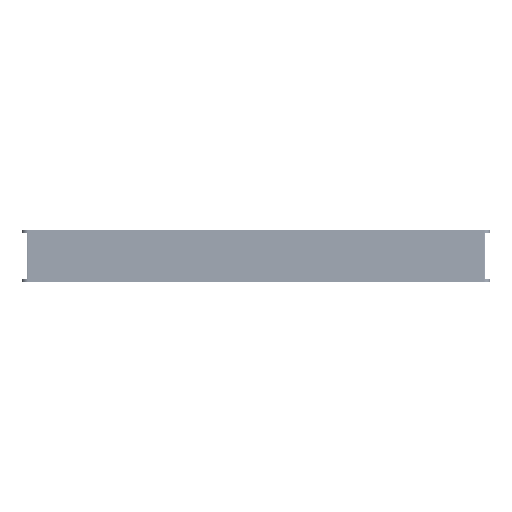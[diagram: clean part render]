
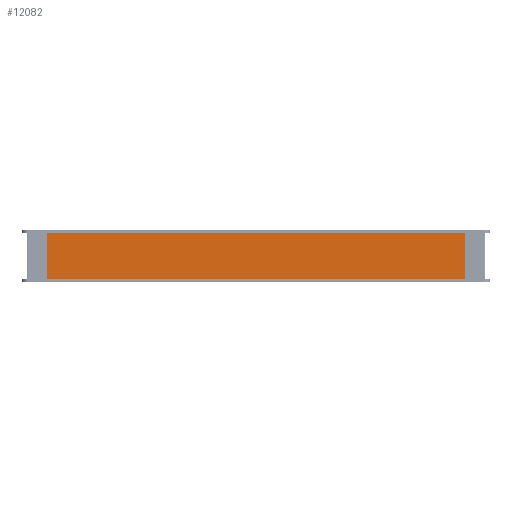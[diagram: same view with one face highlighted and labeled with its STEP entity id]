
A CAD part, left-side view. The second image highlights one B-rep face of the part: STEP entity #12082.
In plain terms, the highlighted planar face has unit normal (-1, 0, 0).
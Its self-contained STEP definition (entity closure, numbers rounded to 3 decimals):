
#972 = VERTEX_POINT ( 'NONE', #149924 ) ;
#11224 = CARTESIAN_POINT ( 'NONE',  ( -875.983, 34.86, -86.545 ) ) ;
#12082 = ADVANCED_FACE ( 'NONE', ( #52879 ), #80776, .F. ) ;
#17507 = DIRECTION ( 'NONE',  ( 0., 1., 0. ) ) ;
#22129 = CARTESIAN_POINT ( 'NONE',  ( -875.983, 467.86, -131.045 ) ) ;
#28904 = ORIENTED_EDGE ( 'NONE', *, *, #55417, .T. ) ;
#30155 = CARTESIAN_POINT ( 'NONE',  ( -875.983, -398.14, -42.045 ) ) ;
#32559 = VECTOR ( 'NONE', #146306, 1000. ) ;
#39635 = LINE ( 'NONE', #30155, #68780 ) ;
#45386 = LINE ( 'NONE', #52274, #32559 ) ;
#49449 = VERTEX_POINT ( 'NONE', #137899 ) ;
#52274 = CARTESIAN_POINT ( 'NONE',  ( -875.983, -398.14, -42.045 ) ) ;
#52879 = FACE_OUTER_BOUND ( 'NONE', #117825, .T. ) ;
#55417 = EDGE_CURVE ( 'NONE', #76734, #102682, #141434, .T. ) ;
#67060 = CARTESIAN_POINT ( 'NONE',  ( -875.983, 467.86, -42.045 ) ) ;
#68780 = VECTOR ( 'NONE', #17507, 1000. ) ;
#76734 = VERTEX_POINT ( 'NONE', #22129 ) ;
#80589 = AXIS2_PLACEMENT_3D ( 'NONE', #11224, #126058, #104149 ) ;
#80776 = PLANE ( 'NONE',  #80589 ) ;
#83192 = VECTOR ( 'NONE', #139293, 1000. ) ;
#86162 = EDGE_CURVE ( 'NONE', #102682, #49449, #45386, .T. ) ;
#88361 = CARTESIAN_POINT ( 'NONE',  ( -875.983, -398.14, -131.045 ) ) ;
#89903 = CARTESIAN_POINT ( 'NONE',  ( -875.983, -398.14, -131.045 ) ) ;
#93611 = ORIENTED_EDGE ( 'NONE', *, *, #135466, .T. ) ;
#100613 = DIRECTION ( 'NONE',  ( 0., -1., 0. ) ) ;
#102682 = VERTEX_POINT ( 'NONE', #89903 ) ;
#104149 = DIRECTION ( 'NONE',  ( 0., -1., 0. ) ) ;
#114141 = LINE ( 'NONE', #67060, #83192 ) ;
#117825 = EDGE_LOOP ( 'NONE', ( #146357, #28904, #148440, #93611 ) ) ;
#126058 = DIRECTION ( 'NONE',  ( 1., 0., 0. ) ) ;
#135466 = EDGE_CURVE ( 'NONE', #49449, #972, #39635, .T. ) ;
#136110 = EDGE_CURVE ( 'NONE', #972, #76734, #114141, .T. ) ;
#137899 = CARTESIAN_POINT ( 'NONE',  ( -875.983, -398.14, -42.045 ) ) ;
#139293 = DIRECTION ( 'NONE',  ( 0., 0., -1. ) ) ;
#139534 = VECTOR ( 'NONE', #100613, 1000. ) ;
#141434 = LINE ( 'NONE', #88361, #139534 ) ;
#146306 = DIRECTION ( 'NONE',  ( 0., 0., 1. ) ) ;
#146357 = ORIENTED_EDGE ( 'NONE', *, *, #136110, .T. ) ;
#148440 = ORIENTED_EDGE ( 'NONE', *, *, #86162, .T. ) ;
#149924 = CARTESIAN_POINT ( 'NONE',  ( -875.983, 467.86, -42.045 ) ) ;
